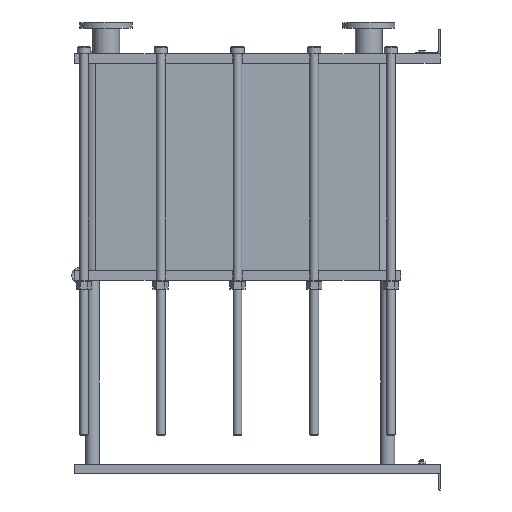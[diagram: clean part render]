
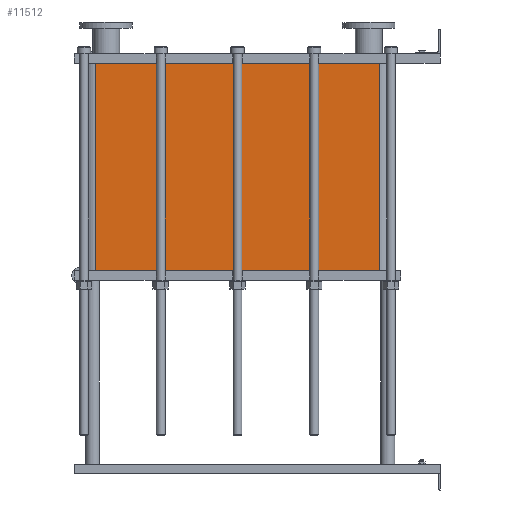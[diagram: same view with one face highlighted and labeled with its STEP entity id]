
A CAD part, left-side view. The second image highlights one B-rep face of the part: STEP entity #11512.
In plain terms, the highlighted planar face has unit normal (-1, 0, 0).
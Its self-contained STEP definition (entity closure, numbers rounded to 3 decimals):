
#1129=LINE('',#23232,#2102);
#1130=LINE('',#23236,#2103);
#1131=LINE('',#23238,#2104);
#1132=LINE('',#23239,#2105);
#2102=VECTOR('',#15887,10.);
#2103=VECTOR('',#15892,10.);
#2104=VECTOR('',#15893,10.);
#2105=VECTOR('',#15894,10.);
#3267=FACE_OUTER_BOUND('',#4093,.T.);
#4093=EDGE_LOOP('',(#10103,#10104,#10105,#10106));
#5642=VERTEX_POINT('',#23229);
#5643=VERTEX_POINT('',#23231);
#5644=VERTEX_POINT('',#23235);
#5645=VERTEX_POINT('',#23237);
#7159=EDGE_CURVE('',#5643,#5642,#1129,.T.);
#7161=EDGE_CURVE('',#5642,#5644,#1130,.T.);
#7162=EDGE_CURVE('',#5645,#5644,#1131,.T.);
#7163=EDGE_CURVE('',#5645,#5643,#1132,.T.);
#10103=ORIENTED_EDGE('',*,*,#7161,.T.);
#10104=ORIENTED_EDGE('',*,*,#7162,.F.);
#10105=ORIENTED_EDGE('',*,*,#7163,.T.);
#10106=ORIENTED_EDGE('',*,*,#7159,.T.);
#10857=PLANE('',#12751);
#11512=ADVANCED_FACE('',(#3267),#10857,.T.);
#12751=AXIS2_PLACEMENT_3D('',#23234,#15890,#15891);
#15887=DIRECTION('',(0.,0.,-1.));
#15890=DIRECTION('center_axis',(-1.,0.,0.));
#15891=DIRECTION('ref_axis',(0.,1.,0.));
#15892=DIRECTION('',(0.,-1.,0.));
#15893=DIRECTION('',(0.,0.,-1.));
#15894=DIRECTION('',(0.,1.,0.));
#23229=CARTESIAN_POINT('',(-200.,1414.,-848.7));
#23231=CARTESIAN_POINT('',(-200.,1414.,0.));
#23232=CARTESIAN_POINT('',(-200.,1414.,0.));
#23234=CARTESIAN_POINT('Origin',(-200.,248.,0.));
#23235=CARTESIAN_POINT('',(-200.,248.,-848.7));
#23236=CARTESIAN_POINT('',(-200.,539.5,-848.7));
#23237=CARTESIAN_POINT('',(-200.,248.,0.));
#23238=CARTESIAN_POINT('',(-200.,248.,0.));
#23239=CARTESIAN_POINT('',(-200.,248.,0.));
